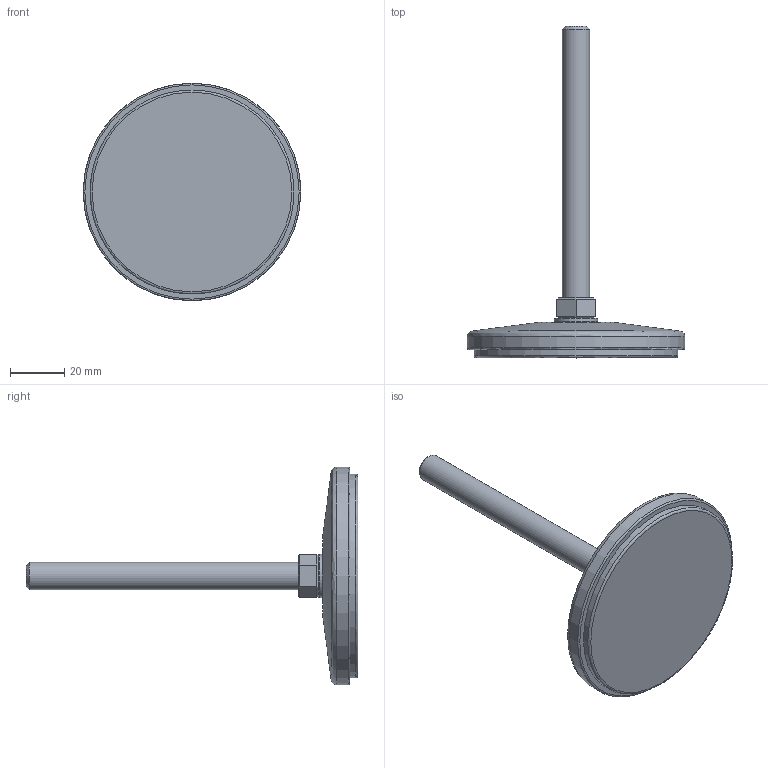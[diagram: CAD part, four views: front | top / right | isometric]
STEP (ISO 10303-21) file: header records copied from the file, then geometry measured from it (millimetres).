
FILE_DESCRIPTION(('STEP AP203'),'2;1');
FILE_NAME('15414-10-G.stp','2015-09-11T11:00:27',(''),(''),'2008.1.107','THINKDESIGN','');
FILE_SCHEMA(('CONFIG_CONTROL_DESIGN'));
Length unit declared in the file: millimetre
Bounding box: 80 x 122 x 80 mm (x, y, z)
Volume: 61814.7 mm3; surface area: 26245.1 mm2
Topology: 6 solids, 6 shells, 63 faces, 147 edges, 102 vertices
Faces by surface type: bspline 33, plane 24, cylinder 6
Full cylindrical faces by diameter (mm): 10 x3, 16 x1, 75 x1, 80 x1
Entity records: 3198 total; most frequent: CARTESIAN_POINT 1677, ORIENTED_EDGE 294, DIRECTION 291, EDGE_CURVE 147, AXIS2_PLACEMENT_3D 114, VERTEX_POINT 102, CIRCLE 84, EDGE_LOOP 71
